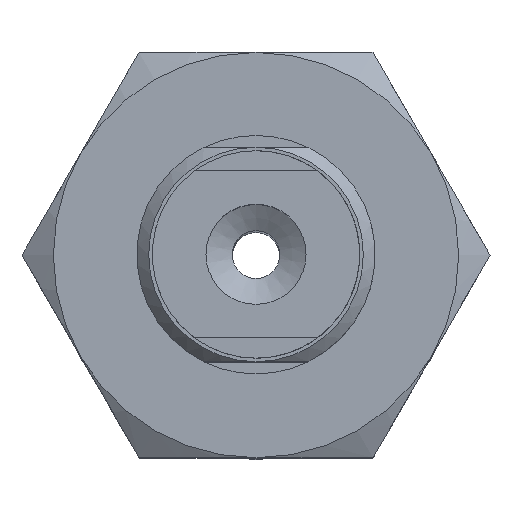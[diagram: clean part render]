
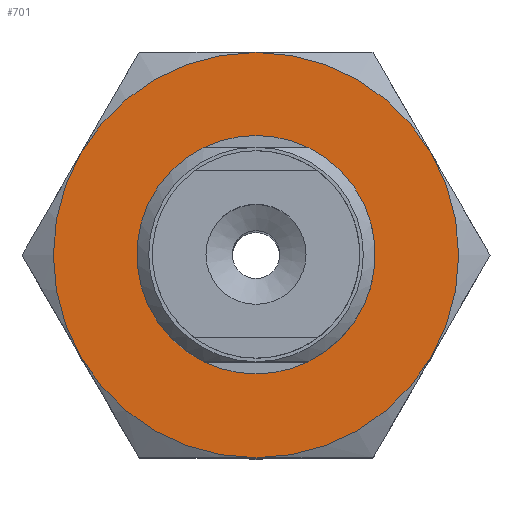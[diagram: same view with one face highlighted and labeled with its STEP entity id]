
A CAD part, top view. The second image highlights one B-rep face of the part: STEP entity #701.
In plain terms, the highlighted planar face has unit normal (0, 0, 1).
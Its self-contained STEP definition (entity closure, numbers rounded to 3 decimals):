
#701=ADVANCED_FACE('',(#957,#958),#959,.T.);
#957=FACE_BOUND('',#1302,.T.);
#958=FACE_OUTER_BOUND('',#1303,.T.);
#959=PLANE('',#1304);
#1302=EDGE_LOOP('',(#2951));
#1303=EDGE_LOOP('',(#2952,#2953,#2954,#2955,#2956,#2957));
#1304=AXIS2_PLACEMENT_3D('',#2958,#2959,#2960);
#2951=ORIENTED_EDGE('',*,*,#3536,.F.);
#2952=ORIENTED_EDGE('',*,*,#3511,.F.);
#2953=ORIENTED_EDGE('',*,*,#3526,.F.);
#2954=ORIENTED_EDGE('',*,*,#3530,.F.);
#2955=ORIENTED_EDGE('',*,*,#3534,.F.);
#2956=ORIENTED_EDGE('',*,*,#3513,.F.);
#2957=ORIENTED_EDGE('',*,*,#3506,.F.);
#2958=CARTESIAN_POINT('',(-9.815,-8.5,4.0));
#2959=DIRECTION('',(0.0,0.0,1.0));
#2960=DIRECTION('',(1.0,0.0,0.0));
#3506=EDGE_CURVE('',#3826,#3813,#3828,.T.);
#3511=EDGE_CURVE('',#3835,#3826,#3838,.T.);
#3513=EDGE_CURVE('',#3813,#3823,#3840,.T.);
#3526=EDGE_CURVE('',#3856,#3835,#3861,.T.);
#3530=EDGE_CURVE('',#3847,#3856,#3865,.T.);
#3534=EDGE_CURVE('',#3823,#3847,#3870,.T.);
#3536=EDGE_CURVE('',#3872,#3872,#3873,.T.);
#3813=VERTEX_POINT('',#4380);
#3823=VERTEX_POINT('',#4407);
#3826=VERTEX_POINT('',#4418);
#3828=CIRCLE('',#4424,8.5);
#3835=VERTEX_POINT('',#4439);
#3838=CIRCLE('',#4446,8.5);
#3840=CIRCLE('',#4452,8.5);
#3847=VERTEX_POINT('',#4468);
#3856=VERTEX_POINT('',#4494);
#3861=CIRCLE('',#4511,8.5);
#3865=CIRCLE('',#4520,8.5);
#3870=CIRCLE('',#4525,8.5);
#3872=VERTEX_POINT('',#4531);
#3873=CIRCLE('',#4532,4.5);
#4380=CARTESIAN_POINT('',(-7.361,4.25,4.0));
#4407=CARTESIAN_POINT('',(0.,8.5,4.0));
#4418=CARTESIAN_POINT('',(-7.361,-4.25,4.0));
#4424=AXIS2_PLACEMENT_3D('',#5151,#5152,#5153);
#4439=CARTESIAN_POINT('',(0.,-8.5,4.0));
#4446=AXIS2_PLACEMENT_3D('',#5157,#5158,#5159);
#4452=AXIS2_PLACEMENT_3D('',#5160,#5161,#5162);
#4468=CARTESIAN_POINT('',(7.361,4.25,4.0));
#4494=CARTESIAN_POINT('',(7.361,-4.25,4.0));
#4511=AXIS2_PLACEMENT_3D('',#5168,#5169,#5170);
#4520=AXIS2_PLACEMENT_3D('',#5175,#5176,#5177);
#4525=AXIS2_PLACEMENT_3D('',#5187,#5188,#5189);
#4531=CARTESIAN_POINT('',(0.0,-4.5,4.0));
#4532=AXIS2_PLACEMENT_3D('',#5190,#5191,#5192);
#5151=CARTESIAN_POINT('',(0.,0.,4.0));
#5152=DIRECTION('',(0.,0.,-1.0));
#5153=DIRECTION('',(0.866,0.5,0.));
#5157=CARTESIAN_POINT('',(0.,0.,4.0));
#5158=DIRECTION('',(0.,0.,-1.0));
#5159=DIRECTION('',(0.866,0.5,0.));
#5160=CARTESIAN_POINT('',(0.,0.,4.0));
#5161=DIRECTION('',(0.,0.,-1.0));
#5162=DIRECTION('',(0.866,0.5,0.));
#5168=CARTESIAN_POINT('',(0.,0.,4.0));
#5169=DIRECTION('',(0.,0.,-1.0));
#5170=DIRECTION('',(0.866,0.5,0.));
#5175=CARTESIAN_POINT('',(0.,0.,4.0));
#5176=DIRECTION('',(0.,0.,-1.0));
#5177=DIRECTION('',(0.866,0.5,0.));
#5187=CARTESIAN_POINT('',(0.,0.,4.0));
#5188=DIRECTION('',(0.,0.,-1.0));
#5189=DIRECTION('',(0.866,0.5,0.));
#5190=CARTESIAN_POINT('',(0.0,0.0,4.0));
#5191=DIRECTION('',(0.0,0.,1.0));
#5192=DIRECTION('',(0.0,-1.0,0.));
